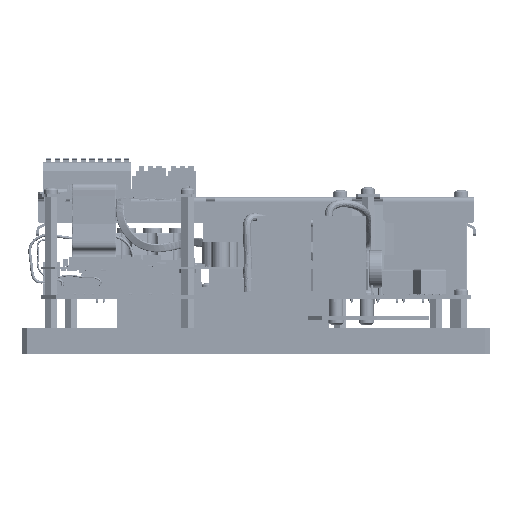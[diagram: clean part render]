
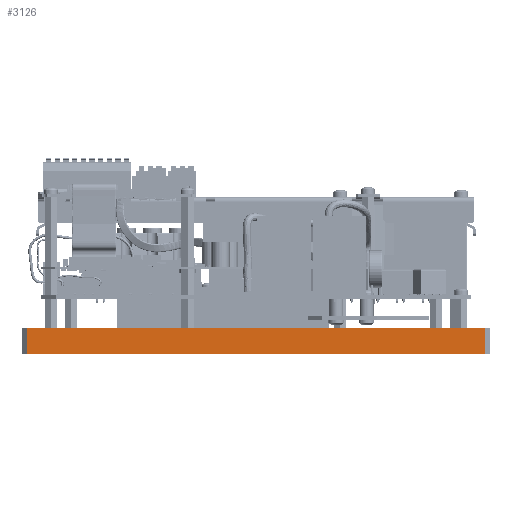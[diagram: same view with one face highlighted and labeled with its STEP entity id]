
A CAD part, left-side view. The second image highlights one B-rep face of the part: STEP entity #3126.
In plain terms, the highlighted planar face has unit normal (-1, 0, 0).
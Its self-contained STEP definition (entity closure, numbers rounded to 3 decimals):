
#3113=AXIS2_PLACEMENT_3D('Plane Axis2P3D',#3110,#3111,#3112) ;
#252=CARTESIAN_POINT('Vertex',(-287.993,131.987,11.7)) ;
#255=CARTESIAN_POINT('Line Origine',(-287.993,-0.013,11.7)) ;
#259=CARTESIAN_POINT('Vertex',(-287.993,-132.013,11.7)) ;
#2892=CARTESIAN_POINT('Vertex',(-287.993,-132.013,-3.)) ;
#2895=CARTESIAN_POINT('Line Origine',(-287.993,-0.013,-3.)) ;
#2899=CARTESIAN_POINT('Vertex',(-287.993,131.987,-3.)) ;
#3098=CARTESIAN_POINT('Line Origine',(-287.993,131.987,4.35)) ;
#3110=CARTESIAN_POINT('Axis2P3D Location',(-287.993,-135.013,-3.)) ;
#3115=CARTESIAN_POINT('Line Origine',(-287.993,-132.013,4.35)) ;
#256=DIRECTION('Vector Direction',(0.,1.,0.)) ;
#2896=DIRECTION('Vector Direction',(0.,1.,0.)) ;
#3099=DIRECTION('Vector Direction',(0.,0.,1.)) ;
#3111=DIRECTION('Axis2P3D Direction',(1.,0.,0.)) ;
#3112=DIRECTION('Axis2P3D XDirection',(0.,1.,0.)) ;
#3116=DIRECTION('Vector Direction',(0.,0.,-1.)) ;
#257=VECTOR('Line Direction',#256,1.) ;
#2897=VECTOR('Line Direction',#2896,1.) ;
#3100=VECTOR('Line Direction',#3099,1.) ;
#3117=VECTOR('Line Direction',#3116,1.) ;
#3121=ORIENTED_EDGE('',*,*,#3102,.F.) ;
#3122=ORIENTED_EDGE('',*,*,#2901,.T.) ;
#3123=ORIENTED_EDGE('',*,*,#3119,.T.) ;
#3124=ORIENTED_EDGE('',*,*,#261,.T.) ;
#3126=ADVANCED_FACE('Heat_sink .Cold Plate BG D MET - .1\\PartBody',(#3125),#3114,.F.) ;
#261=EDGE_CURVE('',#260,#253,#258,.T.) ;
#2901=EDGE_CURVE('',#2900,#2893,#2898,.F.) ;
#3102=EDGE_CURVE('',#2900,#253,#3101,.T.) ;
#3119=EDGE_CURVE('',#2893,#260,#3118,.F.) ;
#3120=EDGE_LOOP('',(#3121,#3122,#3123,#3124)) ;
#3125=FACE_OUTER_BOUND('',#3120,.T.) ;
#258=LINE('Line',#255,#257) ;
#2898=LINE('Line',#2895,#2897) ;
#3101=LINE('Line',#3098,#3100) ;
#3118=LINE('Line',#3115,#3117) ;
#3114=PLANE('Plane',#3113) ;
#253=VERTEX_POINT('',#252) ;
#260=VERTEX_POINT('',#259) ;
#2893=VERTEX_POINT('',#2892) ;
#2900=VERTEX_POINT('',#2899) ;
